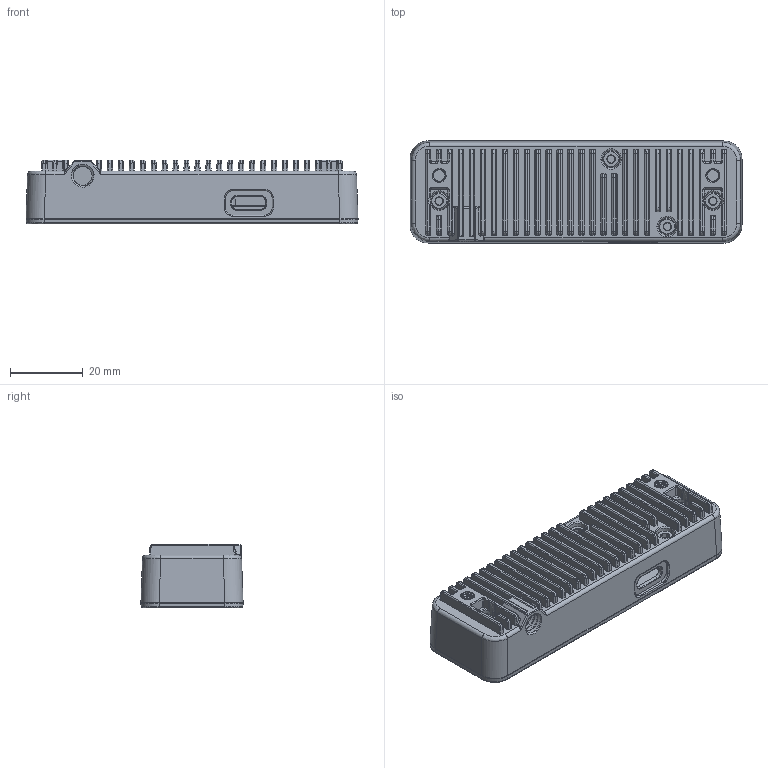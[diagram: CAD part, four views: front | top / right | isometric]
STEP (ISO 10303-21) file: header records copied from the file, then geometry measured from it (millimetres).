
FILE_DESCRIPTION((''),'2;1');
FILE_NAME('010-00006_ASM','2022-01-15T19:24:21',('TWSung'),(''),'CREO PARAMETRIC BY PTC INC, 2020154','CREO PARAMETRIC BY PTC INC, 2020154','');
FILE_SCHEMA(('CONFIG_CONTROL_DESIGN'));
Products named in the file (12): 606-00008_V01-20211224; D-LITE-LENS-ADHESIVE; 609-00004; 609-00004_ASM; 611-00008; 611-00009; 611-00015; 011-00002_ASM; 606-00009_V01-20211224; 612-00002; 602-00001; 010-00006_ASM
Assembly tree (15 placements, depth 4):
  010-00006_ASM
    011-00002_ASM
      606-00008_V01-20211224
      609-00004_ASM
        D-LITE-LENS-ADHESIVE
        609-00004
      611-00008  x2
      611-00009
      611-00015
    606-00009_V01-20211224
    612-00002
    602-00001  x4
Bounding box: 91 x 28 x 17.45 mm (x, y, z)
Volume: 20049.9 mm3; surface area: 31090.8 mm2
Topology: 13 solids, 13 shells, 1979 faces, 4946 edges, 3054 vertices
Faces by surface type: cylinder 885, bspline 475, plane 436, cone 114, torus 45, sphere 16, extrusion 8
Entity records: 101966 total; most frequent: CARTESIAN_POINT 67459, ORIENTED_EDGE 7840, DIRECTION 6066, EDGE_CURVE 3920, VERTEX_POINT 2374, AXIS2_PLACEMENT_3D 2219, EDGE_LOOP 1702, VECTOR 1628
